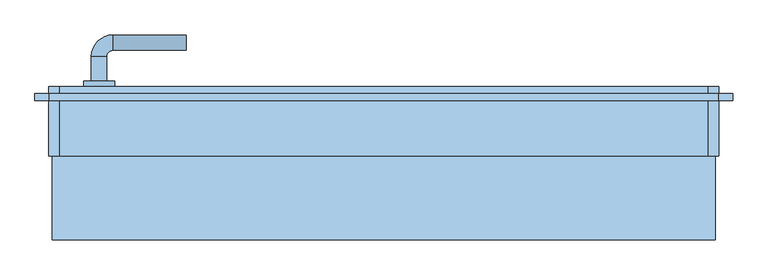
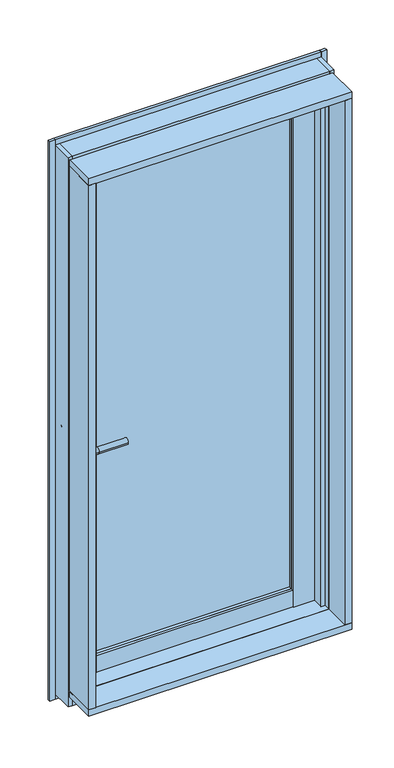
"""IFC4 building model written with IfcOpenShell, lengths in millimetres: window geometry, FNSⅡ100R_非防火_面付枠_単窓 : 片開き框ドア."""

from ifc_helpers import new_model, si_unit, point, frame, frame_2d, origin, place, context, project, spatial, polyline, circle_curve, ellipse_curve, trimmed, segment, composite_curve, outline, extrude, faceted_brep, source, transform, mapped, element, save
from ifc_brep_helpers import plane_surface, cylinder_surface, revolved_surface, advanced_brep


def window_8a831fd3(model_context):
    return source(origin(), model_context, "Body", "SolidModel", [
        extrude(outline(composite_curve([segment(trimmed(circle_curve(frame_2d((269.0, 25.3)), 16.1), [point((285.1, 25.3))], [point((252.9, 25.3))], False, "CARTESIAN"), True, "CONTINUOUS"), segment(trimmed(circle_curve(frame_2d((269.0, 25.3)), 16.1), [point((252.9, 25.3))], [point((285.1, 25.3))], False, "CARTESIAN"), True, "CONTINUOUS")], self_intersect=False)), frame((0.0, 0.0, 2807.0), z_axis=(0.0, 0.0, 1.0), x_axis=(1.0, 0.0, 0.0)), (0.0, 0.0, 1.0), 8.0),
        extrude(outline(polyline([(350.0, 50.8), (350.0, 5.8), (120.0, 5.8), (120.0, 50.8), (350.0, 50.8)])), frame((0.0, 0.0, 2815.0), z_axis=(0.0, 0.0, 1.0), x_axis=(1.0, 0.0, 0.0)), (0.0, 0.0, 1.0), 51.0),
        advanced_brep(
        [(-397.0, 110.0, 1800.0), (-419.0, 110.0, 1800.0), (-419.0, 153.0, 1800.0), (-397.0, 153.0, 1800.0), (-388.0, 162.0, 1800.0), (-388.0, 184.0, 1800.0), (-283.0, 184.0, 1800.0), (-283.0, 162.0, 1800.0)],
        [
            (0, 1, circle_curve(frame((-408.0, 110.0, 1800.0), z_axis=(0.0, 1.0, 0.0), x_axis=(-1.0, 0.0, 0.0)), 11.0)),
            (1, 2),
            (2, 3, circle_curve(frame((-408.0, 153.0, 1800.0), z_axis=(0.0, -1.0, 0.0), x_axis=(-1.0, 0.0, 0.0)), 11.0)),
            (3, 0),
            (4, 5, circle_curve(frame((-388.0, 173.0, 1800.0), z_axis=(1.0, 0.0, 0.0), x_axis=(0.0, 1.0, 0.0)), 11.0)),
            (5, 6),
            (6, 7, circle_curve(frame((-283.0, 173.0, 1800.0), z_axis=(-1.0, 0.0, 0.0), x_axis=(0.0, 1.0, 0.0)), 11.0)),
            (7, 4),
            (5, 4, circle_curve(frame((-388.0, 173.0, 1800.0), z_axis=(1.0, 0.0, 0.0), x_axis=(0.0, 1.0, 0.0)), 11.0)),
            (7, 6, circle_curve(frame((-283.0, 173.0, 1800.0), z_axis=(-1.0, 0.0, 0.0), x_axis=(0.0, 1.0, 0.0)), 11.0)),
            (0, 1, circle_curve(frame((-408.0, 110.0, 1800.0), z_axis=(0.0, -1.0, 0.0), x_axis=(-1.0, 0.0, 0.0)), 11.0)),
            (3, 2, circle_curve(frame((-408.0, 153.0, 1800.0), z_axis=(0.0, -1.0, 0.0), x_axis=(-1.0, 0.0, 0.0)), 11.0)),
            (4, 3, circle_curve(frame((-388.0, 153.0, 1800.0), z_axis=(0.0, 0.0, 1.0), x_axis=(-1.0, 0.0, 0.0)), 9.0)),
            (2, 5, circle_curve(frame((-388.0, 153.0, 1800.0), z_axis=(0.0, 0.0, -1.0), x_axis=(-1.0, 0.0, 0.0)), 31.0)),
        ],
        [
            cylinder_surface(frame((-408.0, 110.0, 1800.0), z_axis=(0.0, -1.0, 0.0), x_axis=(-1.0, 0.0, 0.0)), 11.0),
            cylinder_surface(frame((-388.0, 173.0, 1800.0), z_axis=(-1.0, 0.0, 0.0), x_axis=(0.0, 1.0, 0.0)), 11.0),
            plane_surface(frame((-408.0, 110.0, 1800.0), z_axis=(0.0, -1.0, 0.0), x_axis=(0.0, 0.0, 1.0))),
            revolved_surface(trimmed(ellipse_curve(frame((-408.0, 153.0, 1800.0), z_axis=(0.0, -1.0, 0.0), x_axis=(-1.0, 0.0, 0.0)), 11.0, 11.0), [point((-419.0, 153.0, 1800.0))], [point((-397.0, 153.0, 1800.0))], True, "CARTESIAN"), (-388.0, 153.0, 1800.0), (0.0, 0.0, -1.0)),
            revolved_surface(trimmed(ellipse_curve(frame((-408.0, 153.0, 1800.0), z_axis=(0.0, -1.0, 0.0), x_axis=(-1.0, 0.0, 0.0)), 11.0, 11.0), [point((-397.0, 153.0, 1800.0))], [point((-419.0, 153.0, 1800.0))], True, "CARTESIAN"), (-388.0, 153.0, 1800.0), (0.0, 0.0, -1.0)),
            plane_surface(frame((-283.0, 173.0, 1800.0), z_axis=(1.0, 0.0, 0.0), x_axis=(0.0, 0.0, 1.0))),
        ],
        [
            (0, [[1, 2, 3, 4]]),
            (1, [[5, 6, 7, 8]]),
            (1, [[9, -8, 10, -6]]),
            (2, [[11, -1]]),
            (0, [[-11, -4, 12, -2]]),
            (3, [[13, -3, 14, -5]]),
            (4, [[-14, -12, -13, -9]]),
            (5, [[-7, -10]]),
        ],
    ),
        extrude(outline(composite_curve([segment(trimmed(circle_curve(frame_2d((1800.0, -408.0)), 22.0), [point((1800.0, -430.0))], [point((1800.0, -386.0))], False, "CARTESIAN"), True, "CONTINUOUS"), segment(trimmed(circle_curve(frame_2d((1800.0, -408.0)), 22.0), [point((1800.0, -386.0))], [point((1800.0, -430.0))], False, "CARTESIAN"), True, "CONTINUOUS")], self_intersect=False)), frame((0.0, 110.0, 0.0), z_axis=(0.0, 1.0, 0.0), x_axis=(0.0, 0.0, 1.0)), (0.0, 0.0, 1.0), 8.0),
        extrude(outline(composite_curve([segment(trimmed(circle_curve(frame_2d((1800.0, -408.0)), 22.0), [point((1800.0, -386.0))], [point((1800.0, -430.0))], False, "CARTESIAN"), True, "CONTINUOUS"), segment(trimmed(circle_curve(frame_2d((1800.0, -408.0)), 22.0), [point((1800.0, -430.0))], [point((1800.0, -386.0))], False, "CARTESIAN"), True, "CONTINUOUS")], self_intersect=False)), frame((0.0, 41.0, 0.0), z_axis=(0.0, 1.0, 0.0), x_axis=(0.0, 0.0, 1.0)), (0.0, 0.0, 1.0), 8.0),
        advanced_brep(
        [(-283.0, -25.0, 1800.0), (-283.0, -3.0, 1800.0), (-419.0, 49.0, 1800.0), (-397.0, 49.0, 1800.0), (-419.0, 6.0, 1800.0), (-397.0, 6.0, 1800.0), (-388.0, -3.0, 1800.0), (-388.0, -25.0, 1800.0)],
        [
            (0, 1, circle_curve(frame((-283.0, -14.0, 1800.0), z_axis=(1.0, 0.0, 0.0), x_axis=(0.0, 1.0, 0.0)), 11.0)),
            (1, 0, circle_curve(frame((-283.0, -14.0, 1800.0), z_axis=(1.0, 0.0, 0.0), x_axis=(0.0, 1.0, 0.0)), 11.0)),
            (2, 3, circle_curve(frame((-408.0, 49.0, 1800.0), z_axis=(0.0, 1.0, 0.0), x_axis=(1.0, 0.0, 0.0)), 11.0)),
            (3, 2, circle_curve(frame((-408.0, 49.0, 1800.0), z_axis=(0.0, 1.0, 0.0), x_axis=(1.0, 0.0, 0.0)), 11.0)),
            (2, 4),
            (4, 5, circle_curve(frame((-408.0, 6.0, 1800.0), z_axis=(0.0, 1.0, 0.0), x_axis=(1.0, 0.0, 0.0)), 11.0)),
            (5, 3),
            (5, 4, circle_curve(frame((-408.0, 6.0, 1800.0), z_axis=(0.0, 1.0, 0.0), x_axis=(1.0, 0.0, 0.0)), 11.0)),
            (6, 5, circle_curve(frame((-388.0, 6.0, 1800.0), z_axis=(0.0, 0.0, -1.0), x_axis=(-1.0, 0.0, 0.0)), 9.0)),
            (4, 7, circle_curve(frame((-388.0, 6.0, 1800.0), z_axis=(0.0, 0.0, 1.0), x_axis=(-1.0, 0.0, 0.0)), 31.0)),
            (7, 6, circle_curve(frame((-388.0, -14.0, 1800.0), z_axis=(-1.0, 0.0, 0.0), x_axis=(0.0, 1.0, 0.0)), 11.0)),
            (6, 7, circle_curve(frame((-388.0, -14.0, 1800.0), z_axis=(-1.0, 0.0, 0.0), x_axis=(0.0, 1.0, 0.0)), 11.0)),
            (7, 0),
            (1, 6),
        ],
        [
            plane_surface(frame((-283.0, -14.0, 1800.0), z_axis=(1.0, 0.0, 0.0), x_axis=(0.0, 0.0, 1.0))),
            plane_surface(frame((-408.0, 49.0, 1800.0), z_axis=(0.0, 1.0, 0.0), x_axis=(0.0, 0.0, 1.0))),
            cylinder_surface(frame((-408.0, 49.0, 1800.0), z_axis=(0.0, 1.0, 0.0), x_axis=(1.0, 0.0, 0.0)), 11.0),
            revolved_surface(trimmed(ellipse_curve(frame((-408.0, 6.0, 1800.0), z_axis=(0.0, 1.0, 0.0), x_axis=(1.0, 0.0, 0.0)), 11.0, 11.0), [point((-419.0, 6.0, 1800.0))], [point((-397.0, 6.0, 1800.0))], True, "CARTESIAN"), (-388.0, 6.0, 1800.0), (0.0, 0.0, 1.0)),
            revolved_surface(trimmed(ellipse_curve(frame((-408.0, 6.0, 1800.0), z_axis=(0.0, 1.0, 0.0), x_axis=(1.0, 0.0, 0.0)), 11.0, 11.0), [point((-397.0, 6.0, 1800.0))], [point((-419.0, 6.0, 1800.0))], True, "CARTESIAN"), (-388.0, 6.0, 1800.0), (0.0, 0.0, 1.0)),
            cylinder_surface(frame((-388.0, -14.0, 1800.0), z_axis=(-1.0, 0.0, 0.0), x_axis=(0.0, 1.0, 0.0)), 11.0),
        ],
        [
            (0, [[1, 2]]),
            (1, [[3, 4]]),
            (2, [[-3, 5, 6, 7]]),
            (2, [[-4, -7, 8, -5]]),
            (3, [[9, -6, 10, 11]]),
            (4, [[-10, -8, -9, 12]]),
            (5, [[-11, 13, -2, 14]]),
            (5, [[-12, -14, -1, -13]]),
        ],
    ),
        extrude(outline(polyline([(-356.0, 80.0), (356.0, 80.0), (356.0, 74.0), (-356.0, 74.0), (-356.0, 80.0)])), frame((0.0, 0.0, 967.0), z_axis=(0.0, 0.0, 1.0), x_axis=(1.0, 0.0, 0.0)), (0.0, 0.0, 1.0), 1822.0),
        extrude(outline(polyline([(-356.0, 98.0), (356.0, 98.0), (356.0, 92.0), (-356.0, 92.0), (-356.0, 98.0)])), frame((0.0, 0.0, 967.0), z_axis=(0.0, 0.0, 1.0), x_axis=(1.0, 0.0, 0.0)), (0.0, 0.0, 1.0), 1822.0),
        extrude(outline(polyline([(356.0, 49.0), (356.0, 61.0), (431.0, 61.0), (431.0, 49.0), (356.0, 49.0)])), frame((0.0, 0.0, 904.0), z_axis=(0.0, 0.0, 1.0), x_axis=(1.0, 0.0, 0.0)), (0.0, 0.0, 1.0), 1973.0),
        extrude(outline(polyline([(-356.0, 49.0), (-431.0, 49.0), (-431.0, 61.0), (-356.0, 61.0), (-356.0, 49.0)])), frame((0.0, 0.0, 904.0), z_axis=(0.0, 0.0, 1.0), x_axis=(1.0, 0.0, 0.0)), (0.0, 0.0, 1.0), 1973.0),
        extrude(outline(polyline([(446.0, 110.0), (446.0, 61.0), (356.0, 61.0), (356.0, 110.0), (446.0, 110.0)])), frame((0.0, 0.0, 862.0), z_axis=(0.0, 0.0, 1.0), x_axis=(1.0, 0.0, 0.0)), (0.0, 0.0, 1.0), 2032.0),
        extrude(outline(polyline([(-446.0, 110.0), (-356.0, 110.0), (-356.0, 61.0), (-446.0, 61.0), (-446.0, 110.0)])), frame((0.0, 0.0, 862.0), z_axis=(0.0, 0.0, 1.0), x_axis=(1.0, 0.0, 0.0)), (0.0, 0.0, 1.0), 2032.0),
        extrude(outline(polyline([(356.0, 61.0), (356.0, 50.8), (-356.0, 50.8), (-356.0, 61.0), (356.0, 61.0)])), frame((0.0, 0.0, 904.0), z_axis=(0.0, 0.0, 1.0), x_axis=(1.0, 0.0, 0.0)), (0.0, 0.0, 1.0), 63.0),
        extrude(outline(polyline([(356.0, 110.0), (356.0, 61.0), (-356.0, 61.0), (-356.0, 110.0), (356.0, 110.0)])), frame((0.0, 0.0, 862.0), z_axis=(0.0, 0.0, 1.0), x_axis=(1.0, 0.0, 0.0)), (0.0, 0.0, 1.0), 105.0),
        extrude(outline(polyline([(356.0, 61.0), (356.0, 50.8), (-356.0, 50.8), (-356.0, 61.0), (356.0, 61.0)])), frame((0.0, 0.0, 2789.0), z_axis=(0.0, 0.0, 1.0), x_axis=(1.0, 0.0, 0.0)), (0.0, 0.0, 1.0), 88.0),
        extrude(outline(polyline([(356.0, 110.0), (356.0, 61.0), (-356.0, 61.0), (-356.0, 110.0), (356.0, 110.0)])), frame((0.0, 0.0, 2789.0), z_axis=(0.0, 0.0, 1.0), x_axis=(1.0, 0.0, 0.0)), (0.0, 0.0, 1.0), 105.0),
        faceted_brep([(-450.0, 110.0, 850.0), (-450.0, 58.0, 850.0), (-436.3, 58.0, 850.0), (-436.3, 53.0, 850.0), (-465.0, 53.0, 850.0), (-465.0, 110.0, 850.0), (-480.0, 110.0, 2935.0), (-480.0, 10.0, 2935.0), (-465.0, 10.0, 2935.0), (-465.0, 110.0, 2935.0), (-480.0, 110.0, 840.0), (-465.0, 110.0, 840.0), (-465.0, 10.0, 840.0), (-480.0, 10.0, 840.0), (-465.0, 53.0, 2900.0), (-465.0, 110.0, 2900.0), (-450.0, 110.0, 2900.0), (-436.3, 53.0, 2900.0), (-436.3, 58.0, 2900.0), (-450.0, 58.0, 2900.0)], [[[0, 1, 2, 3, 4, 5]], [[6, 7, 8, 9]], [[10, 11, 12, 13]], [[7, 6, 10, 13]], [[8, 7, 13, 12]], [[9, 8, 12, 11, 5, 4, 14, 15]], [[6, 9, 15, 16, 0, 5, 11, 10]], [[16, 15, 14, 17, 18, 19]], [[17, 14, 4, 3]], [[16, 19, 1, 0]], [[18, 17, 3, 2]], [[19, 18, 2, 1]]]),
        faceted_brep([(450.0, 110.0, 850.0), (465.0, 110.0, 850.0), (465.0, 53.0, 850.0), (436.3, 53.0, 850.0), (436.3, 58.0, 850.0), (450.0, 58.0, 850.0), (480.0, 10.0, 2935.0), (465.0, 10.0, 2935.0), (465.0, 10.0, 840.0), (480.0, 10.0, 840.0), (436.3, 58.0, 2900.0), (450.0, 58.0, 2900.0), (480.0, 110.0, 2935.0), (465.0, 110.0, 2935.0), (465.0, 110.0, 840.0), (480.0, 110.0, 840.0), (450.0, 110.0, 2900.0), (436.3, 53.0, 2900.0), (465.0, 53.0, 2900.0), (465.0, 110.0, 2900.0)], [[[0, 1, 2, 3, 4, 5]], [[6, 7, 8, 9]], [[10, 11, 5, 4]], [[7, 6, 12, 13]], [[8, 14, 15, 9]], [[16, 11, 10, 17, 18, 19]], [[12, 6, 9, 15]], [[13, 12, 15, 14, 1, 0, 16, 19]], [[7, 13, 19, 18, 2, 1, 14, 8]], [[11, 16, 0, 5]], [[17, 10, 4, 3]], [[18, 17, 3, 2]]]),
        extrude(outline(polyline([(-465.0, 10.0), (-465.0, 53.0), (-435.0, 53.0), (-435.0, 12.5), (-450.0, 12.5), (-450.0, -10.0), (-453.0, -10.0), (-453.0, 10.0), (-465.0, 10.0)])), frame((0.0, 0.0, 900.0), z_axis=(0.0, 0.0, 1.0), x_axis=(1.0, 0.0, 0.0)), (0.0, 0.0, 1.0), 2003.0),
        extrude(outline(polyline([(465.0, 10.0), (453.0, 10.0), (453.0, -10.0), (450.0, -10.0), (450.0, 12.5), (435.0, 12.5), (435.0, 53.0), (465.0, 53.0), (465.0, 10.0)])), frame((0.0, 0.0, 900.0), z_axis=(0.0, 0.0, 1.0), x_axis=(1.0, 0.0, 0.0)), (0.0, 0.0, 1.0), 2003.0),
        extrude(outline(polyline([(10.0, 884.0), (10.0, 897.0), (-10.0, 897.0), (-10.0, 900.0), (57.0, 900.0), (57.0, 884.0), (10.0, 884.0)])), frame((-453.0, 0.0, 0.0), z_axis=(1.0, 0.0, 0.0), x_axis=(0.0, 1.0, 0.0)), (0.0, 0.0, 1.0), 906.0),
        extrude(outline(polyline([(110.0, 840.0), (10.0, 840.0), (10.0, 884.0), (57.0, 884.0), (57.0, 850.0), (110.0, 850.0), (110.0, 840.0)])), frame((-465.0, 0.0, 0.0), z_axis=(1.0, 0.0, 0.0), x_axis=(0.0, 1.0, 0.0)), (0.0, 0.0, 1.0), 930.0),
        extrude(outline(polyline([(52.7, 2884.0), (16.0, 2884.0), (16.0, 2900.0), (-10.0, 2900.0), (-10.0, 2903.0), (10.0, 2903.0), (10.0, 2914.5), (52.7, 2914.5), (52.7, 2884.0)])), frame((-450.0, 0.0, 0.0), z_axis=(1.0, 0.0, 0.0), x_axis=(0.0, 1.0, 0.0)), (0.0, 0.0, 1.0), 900.0),
        extrude(outline(polyline([(110.0, 2900.0), (58.0, 2900.0), (58.0, 2884.0), (52.7, 2884.0), (52.7, 2914.5), (10.0, 2914.5), (10.0, 2935.0), (110.0, 2935.0), (110.0, 2900.0)])), frame((-465.0, 0.0, 0.0), z_axis=(1.0, 0.0, 0.0), x_axis=(0.0, 1.0, 0.0)), (0.0, 0.0, 1.0), 930.0),
        extrude(outline(polyline([(450.0, -110.0), (450.0, -10.0), (453.0, -10.0), (453.0, 10.0), (475.0, 10.0), (475.0, -110.0), (450.0, -110.0)])), frame((0.0, 0.0, 900.0), z_axis=(0.0, 0.0, 1.0), x_axis=(1.0, 0.0, 0.0)), (0.0, 0.0, 1.0), 2000.0),
        extrude(outline(polyline([(-453.0, 10.0), (-453.0, -10.0), (-450.0, -10.0), (-450.0, -110.0), (-475.0, -110.0), (-475.0, 10.0), (-453.0, 10.0)])), frame((0.0, 0.0, 900.0), z_axis=(0.0, 0.0, 1.0), x_axis=(1.0, 0.0, 0.0)), (0.0, 0.0, 1.0), 2000.0),
        extrude(outline(polyline([(-500.0, 90.0), (-500.0, 100.0), (-480.0, 100.0), (-480.0, 90.0), (-500.0, 90.0)])), frame((0.0, 0.0, 820.0), z_axis=(0.0, 0.0, 1.0), x_axis=(1.0, 0.0, 0.0)), (0.0, 0.0, 1.0), 2135.0),
        extrude(outline(polyline([(500.0, 90.0), (480.0, 90.0), (480.0, 100.0), (500.0, 100.0), (500.0, 90.0)])), frame((0.0, 0.0, 820.0), z_axis=(0.0, 0.0, 1.0), x_axis=(1.0, 0.0, 0.0)), (0.0, 0.0, 1.0), 2135.0),
        extrude(outline(polyline([(-450.0, -110.0), (-475.0, -110.0), (-475.0, 10.0), (-450.0, 10.0), (-450.0, -110.0)])), frame((0.0, 0.0, 900.0), z_axis=(0.0, 0.0, 1.0), x_axis=(1.0, 0.0, 0.0)), (0.0, 0.0, 1.0), 2000.0),
        extrude(outline(polyline([(-110.0, 900.0), (-10.0, 900.0), (-10.0, 897.0), (10.0, 897.0), (10.0, 875.0), (-110.0, 875.0), (-110.0, 900.0)])), frame((-475.0, 0.0, 0.0), z_axis=(1.0, 0.0, 0.0), x_axis=(0.0, 1.0, 0.0)), (0.0, 0.0, 1.0), 950.0),
        extrude(outline(polyline([(-480.0, 90.0), (-480.0, 100.0), (480.0, 100.0), (480.0, 90.0), (-480.0, 90.0)])), frame((0.0, 0.0, 820.0), z_axis=(0.0, 0.0, 1.0), x_axis=(1.0, 0.0, 0.0)), (0.0, 0.0, 1.0), 20.0),
        extrude(outline(polyline([(-110.0, 2925.0), (10.0, 2925.0), (10.0, 2903.0), (-10.0, 2903.0), (-10.0, 2900.0), (-110.0, 2900.0), (-110.0, 2925.0)])), frame((-475.0, 0.0, 0.0), z_axis=(1.0, 0.0, 0.0), x_axis=(0.0, 1.0, 0.0)), (0.0, 0.0, 1.0), 950.0),
        extrude(outline(polyline([(-480.0, 90.0), (-480.0, 100.0), (480.0, 100.0), (480.0, 90.0), (-480.0, 90.0)])), frame((0.0, 0.0, 2935.0), z_axis=(0.0, 0.0, 1.0), x_axis=(1.0, 0.0, 0.0)), (0.0, 0.0, 1.0), 20.0),
    ])


if __name__ == "__main__":
    model = new_model("IFC4")
    model_context = context("Model", 3, world=origin())
    ifc_project = project(units=[si_unit("LENGTHUNIT", "METRE", prefix="MILLI")], contexts=[model_context])
    site = spatial("IfcSite", under=ifc_project)
    building = spatial("IfcBuilding", under=site)
    placement = place(None, origin())
    window_shape = window_8a831fd3(model_context)
    element("IfcWindow", 1, ObjectType="FNSⅡ100R_非防火_面付枠_単窓 : 片開き框ドア", at=placement, inside=building, context=model_context, shape_type="MappedRepresentation", body=[
        mapped(window_shape, transform((0.0, 0.0, 0.0), x_axis=(1.0, 0.0, 0.0), y_axis=(0.0, 1.0, 0.0), z_axis=(0.0, 0.0, 1.0))),
    ])
    save(model, "model.ifc")
